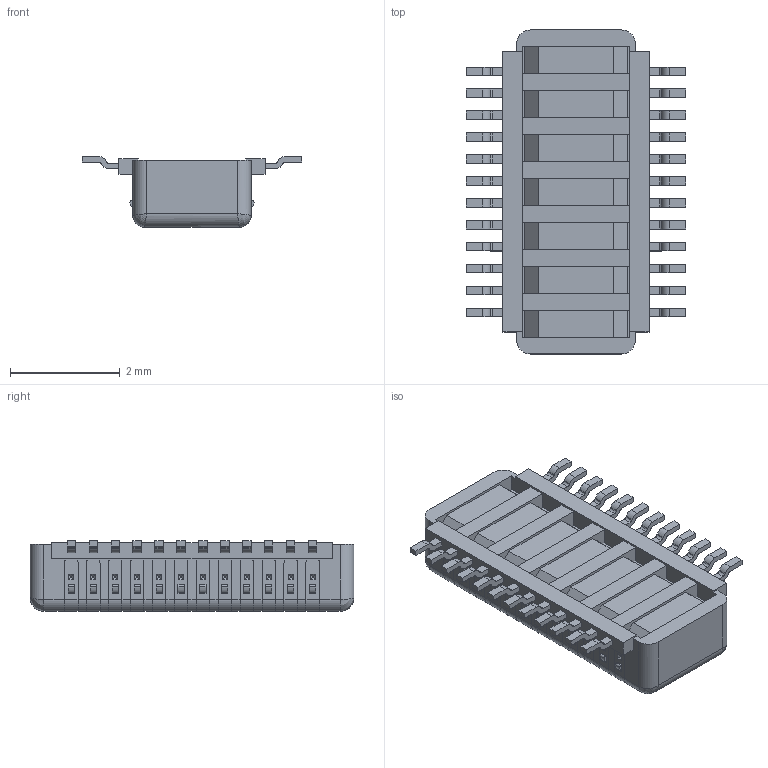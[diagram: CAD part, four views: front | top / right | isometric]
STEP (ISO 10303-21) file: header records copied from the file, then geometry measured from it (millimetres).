
FILE_DESCRIPTION (( 'STEP AP203' ), '1' );
FILE_NAME ('GT-B0405MSV12-24B1101.STEP', '2026-07-23T03:07:41', ( '' ), ( '' ), 'SwSTEP 2.0', 'SolidWorks 2020', '' );
FILE_SCHEMA (( 'CONFIG_CONTROL_DESIGN' ));
Length unit declared in the file: millimetre
Products named in the file (1): GT-B0405MSV12-24B1101
Bounding box: 4 x 5.9 x 1.29 mm (x, y, z)
Volume: 10.1 mm3; surface area: 75.3 mm2
Topology: 1 solids, 1 shells, 1288 faces, 3570 edges, 2376 vertices
Faces by surface type: plane 893, cylinder 320, bspline 75
Entity records: 45097 total; most frequent: CARTESIAN_POINT 11922, ORIENTED_EDGE 7140, DIRECTION 6480, EDGE_CURVE 3570, LINE 2780, VECTOR 2780, VERTEX_POINT 2376, AXIS2_PLACEMENT_3D 1850
